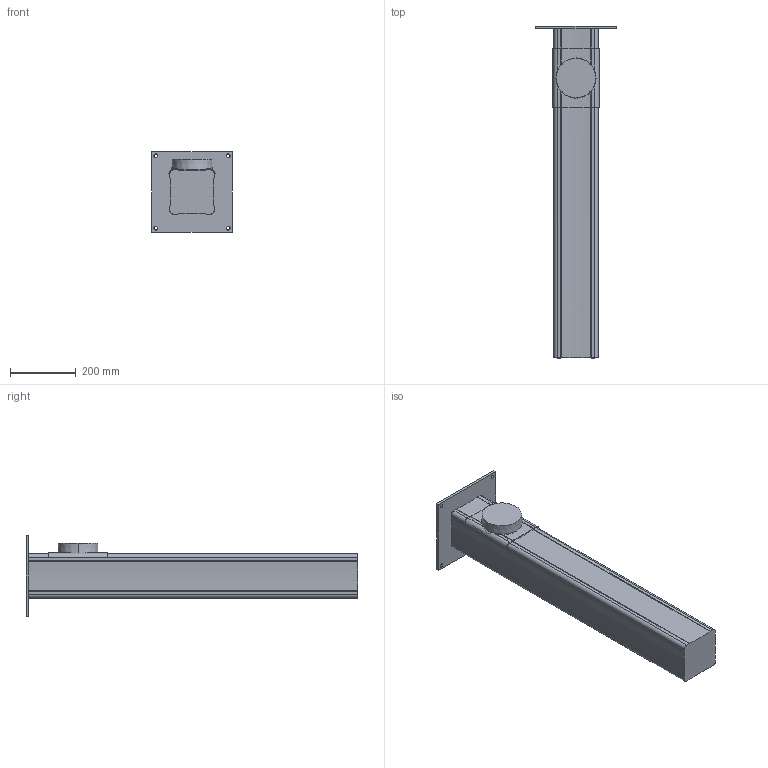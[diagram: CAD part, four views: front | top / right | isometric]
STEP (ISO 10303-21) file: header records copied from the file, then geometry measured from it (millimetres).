
FILE_DESCRIPTION((''),'2;1');
FILE_NAME('MTI1000-125','2015-12-02T',('Tomas Bellgran'),(''),'PRO/ENGINEER BY PARAMETRIC TECHNOLOGY CORPORATION, 2013410','PRO/ENGINEER BY PARAMETRIC TECHNOLOGY CORPORATION, 2013410','');
FILE_SCHEMA(('AUTOMOTIVE_DESIGN { 1 0 10303 214 1 1 1 1 }'));
Length unit declared in the file: millimetre
Products named in the file (6): 100564; 100731; G_MTI_SPIGOT_100; G_MTI_SPIGOT_100_TPE; 101330; MTI1000-125
Assembly tree (5 placements, depth 3):
  MTI1000-125
    100564
    100731
    101330
      G_MTI_SPIGOT_100
      G_MTI_SPIGOT_100_TPE
Bounding box: 245 x 1008 x 245 mm (x, y, z)
Volume: 17644024.3 mm3; surface area: 785094.2 mm2
Topology: 4 solids, 4 shells, 92 faces, 252 edges, 166 vertices
Faces by surface type: cylinder 52, plane 30, bspline 8, cone 2
Entity records: 13019 total; most frequent: CARTESIAN_POINT 8756, DIRECTION 514, ORIENTED_EDGE 504, PROPERTY_DEFINITION 255, EDGE_CURVE 252, REPRESENTATION 251, PROPERTY_DEFINITION_REPRESENTATION 251, DESCRIPTIVE_REPRESENTATION_ITEM 209
